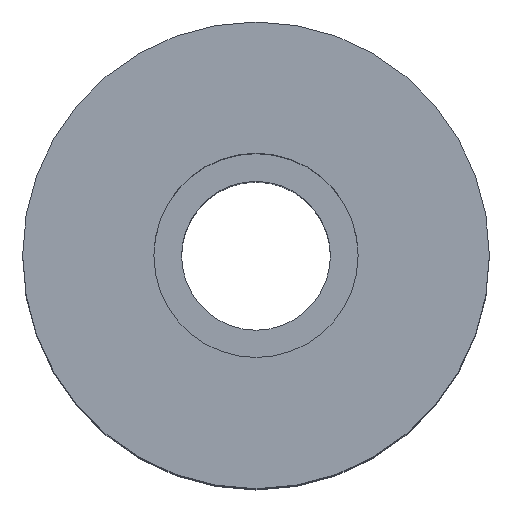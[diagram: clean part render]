
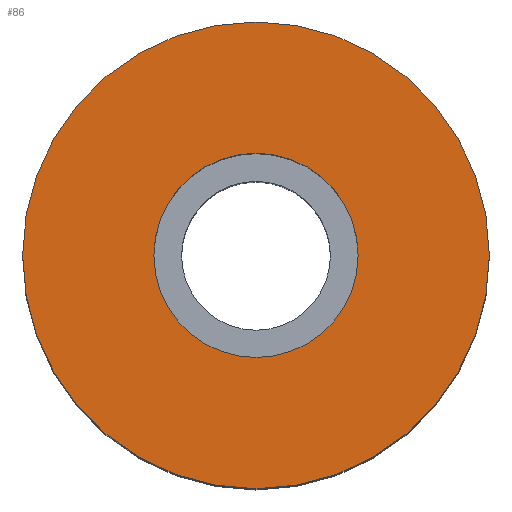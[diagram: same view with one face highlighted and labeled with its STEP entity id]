
A CAD part, top view. The second image highlights one B-rep face of the part: STEP entity #86.
In plain terms, the highlighted planar face has unit normal (0, 0, 1).
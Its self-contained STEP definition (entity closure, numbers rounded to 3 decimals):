
#86=ADVANCED_FACE('',(#135,#136),#137,.T.);
#135=FACE_BOUND('',#186,.T.);
#136=FACE_OUTER_BOUND('',#187,.T.);
#137=PLANE('',#188);
#186=EDGE_LOOP('',(#352,#353));
#187=EDGE_LOOP('',(#354,#355));
#188=AXIS2_PLACEMENT_3D('',#356,#357,#358);
#352=ORIENTED_EDGE('',*,*,#418,.F.);
#353=ORIENTED_EDGE('',*,*,#410,.F.);
#354=ORIENTED_EDGE('',*,*,#414,.T.);
#355=ORIENTED_EDGE('',*,*,#417,.T.);
#356=CARTESIAN_POINT('',(11.5,0.,49.648));
#357=DIRECTION('',(-0.0,0.,1.0));
#358=DIRECTION('',(1.0,0.0,0.0));
#410=EDGE_CURVE('',#492,#488,#494,.T.);
#414=EDGE_CURVE('',#496,#500,#502,.T.);
#417=EDGE_CURVE('',#500,#496,#505,.T.);
#418=EDGE_CURVE('',#488,#492,#506,.T.);
#488=VERTEX_POINT('',#586);
#492=VERTEX_POINT('',#591);
#494=CIRCLE('',#594,7.0);
#496=VERTEX_POINT('',#596);
#500=VERTEX_POINT('',#601);
#502=CIRCLE('',#604,16.0);
#505=CIRCLE('',#607,16.0);
#506=CIRCLE('',#608,7.0);
#586=CARTESIAN_POINT('',(7.0,0.,49.648));
#591=CARTESIAN_POINT('',(-7.0,0.,49.648));
#594=AXIS2_PLACEMENT_3D('',#717,#718,#719);
#596=CARTESIAN_POINT('',(16.0,0.,49.648));
#601=CARTESIAN_POINT('',(-16.0,0.,49.648));
#604=AXIS2_PLACEMENT_3D('',#725,#726,#727);
#607=AXIS2_PLACEMENT_3D('',#734,#735,#736);
#608=AXIS2_PLACEMENT_3D('',#737,#738,#739);
#717=CARTESIAN_POINT('',(0.0,0.,49.648));
#718=DIRECTION('',(-0.0,0.,1.0));
#719=DIRECTION('',(1.0,0.0,0.0));
#725=CARTESIAN_POINT('',(0.0,0.,49.648));
#726=DIRECTION('',(-0.0,0.,1.0));
#727=DIRECTION('',(1.0,0.0,0.0));
#734=CARTESIAN_POINT('',(0.0,0.,49.648));
#735=DIRECTION('',(-0.0,0.,1.0));
#736=DIRECTION('',(1.0,0.0,0.0));
#737=CARTESIAN_POINT('',(0.0,0.,49.648));
#738=DIRECTION('',(-0.0,0.,1.0));
#739=DIRECTION('',(1.0,0.0,0.0));
